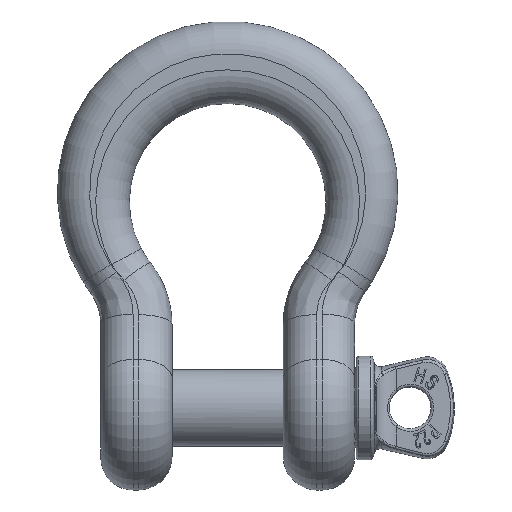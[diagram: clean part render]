
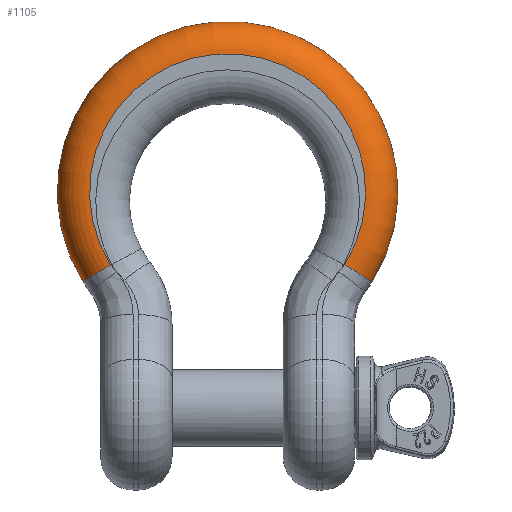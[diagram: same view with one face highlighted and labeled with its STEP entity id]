
A CAD part, top view. The second image highlights one B-rep face of the part: STEP entity #1105.
In plain terms, the highlighted toroidal (fillet/blend) face has major radius 102.5 mm and minor radius 24 mm.
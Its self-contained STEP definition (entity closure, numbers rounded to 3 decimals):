
#571=FACE_OUTER_BOUND('',#2147,.T.);
#855=TOROIDAL_SURFACE('',#9745,102.5,24.);
#1105=ADVANCED_FACE('',(#571),#855,.T.);
#1738=CIRCLE('',#9671,102.5);
#1744=CIRCLE('',#9681,126.5);
#1783=CIRCLE('',#9741,24.);
#1786=CIRCLE('',#9744,24.);
#2147=EDGE_LOOP('',(#4716,#4717,#4718,#4719));
#4716=ORIENTED_EDGE('',*,*,#7799,.F.);
#4717=ORIENTED_EDGE('',*,*,#7723,.F.);
#4718=ORIENTED_EDGE('',*,*,#7802,.T.);
#4719=ORIENTED_EDGE('',*,*,#7707,.F.);
#6601=VERTEX_POINT('',#18838);
#6602=VERTEX_POINT('',#18840);
#6613=VERTEX_POINT('',#18886);
#6614=VERTEX_POINT('',#18888);
#7707=EDGE_CURVE('',#6601,#6602,#1738,.T.);
#7723=EDGE_CURVE('',#6613,#6614,#1744,.T.);
#7799=EDGE_CURVE('',#6614,#6601,#1783,.T.);
#7802=EDGE_CURVE('',#6613,#6602,#1786,.T.);
#9671=AXIS2_PLACEMENT_3D('',#18839,#10780,#10781);
#9681=AXIS2_PLACEMENT_3D('',#18887,#10806,#10807);
#9741=AXIS2_PLACEMENT_3D('',#19261,#10935,#10936);
#9744=AXIS2_PLACEMENT_3D('',#19294,#10941,#10942);
#9745=AXIS2_PLACEMENT_3D('',#19295,#10943,#10944);
#10780=DIRECTION('',(0.,0.,1.));
#10781=DIRECTION('',(-1.,0.,0.));
#10806=DIRECTION('',(0.,0.,-1.));
#10807=DIRECTION('',(-1.,0.,0.));
#10935=DIRECTION('',(-0.529,-0.849,0.));
#10936=DIRECTION('',(-0.849,0.529,0.));
#10941=DIRECTION('',(-0.529,0.849,0.));
#10942=DIRECTION('',(0.849,0.529,0.));
#10943=DIRECTION('',(0.,0.,-1.));
#10944=DIRECTION('',(-1.,0.,0.));
#18838=CARTESIAN_POINT('',(86.995,-41.204,26.5));
#18839=CARTESIAN_POINT('',(0.,13.,26.5));
#18840=CARTESIAN_POINT('',(-86.995,-41.204,26.5));
#18886=CARTESIAN_POINT('',(-107.365,-53.896,2.5));
#18887=CARTESIAN_POINT('',(0.,13.,2.5));
#18888=CARTESIAN_POINT('',(107.365,-53.896,2.5));
#19261=CARTESIAN_POINT('',(86.995,-41.204,2.5));
#19294=CARTESIAN_POINT('',(-86.995,-41.204,2.5));
#19295=CARTESIAN_POINT('',(0.,13.,2.5));
